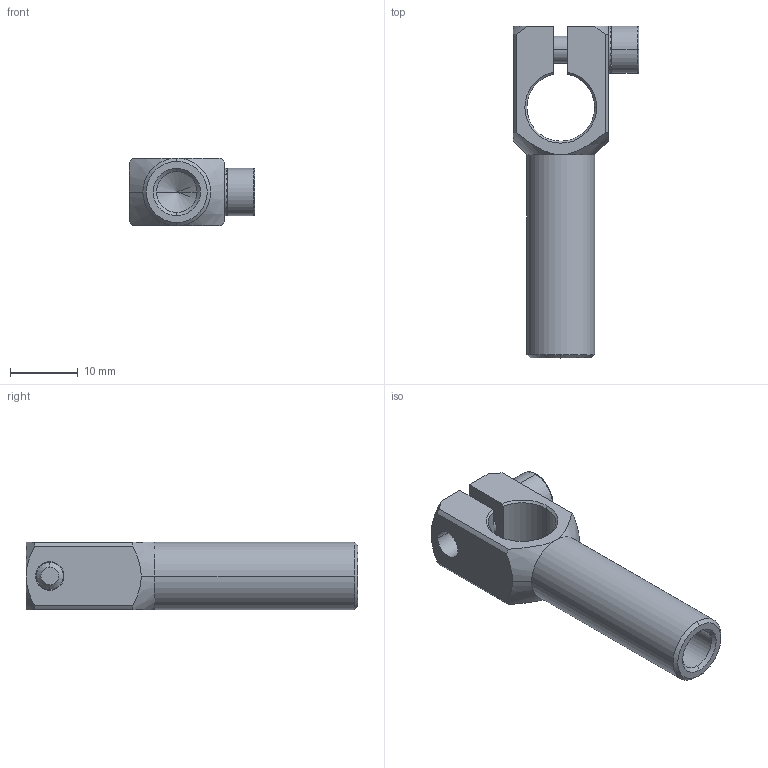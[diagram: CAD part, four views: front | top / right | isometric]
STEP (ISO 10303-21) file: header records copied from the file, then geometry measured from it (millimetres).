
FILE_DESCRIPTION (( 'STEP AP214' ), '1' );
FILE_NAME ('SCA1-1010L30T.STEP', '2023-01-11T05:50:48', ( 'Windows User' ), ( 'P R C' ), 'SwSTEP 2.0', 'SolidWorks 2019', '' );
FILE_SCHEMA (( 'AUTOMOTIVE_DESIGN' ));
Length unit declared in the file: millimetre
Products named in the file (1): SCA1-1010L30T
Bounding box: 18.5 x 49 x 10 mm (x, y, z)
Volume: 3331.4 mm3; surface area: 3277.9 mm2
Topology: 3 solids, 3 shells, 257 faces, 730 edges, 478 vertices
Faces by surface type: plane 211, cylinder 23, cone 21, bspline 2
Entity records: 11454 total; most frequent: CARTESIAN_POINT 1706, DIRECTION 1469, ORIENTED_EDGE 1456, EDGE_CURVE 728, AXIS2_PLACEMENT_3D 508, VERTEX_POINT 478, VECTOR 453, LINE 453
